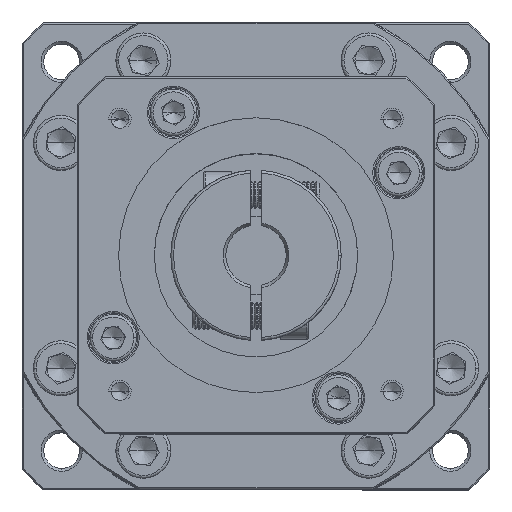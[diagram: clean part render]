
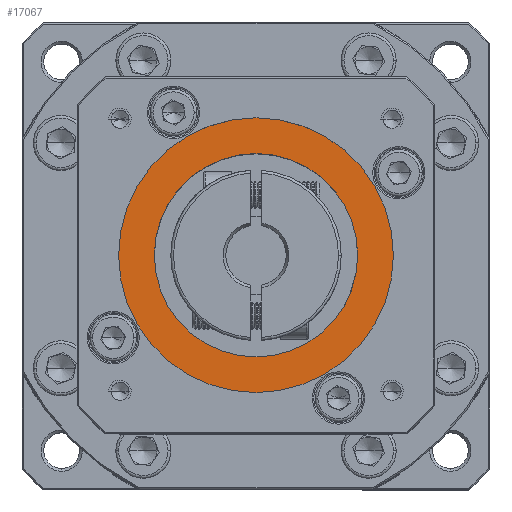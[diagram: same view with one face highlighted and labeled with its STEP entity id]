
A CAD part, top view. The second image highlights one B-rep face of the part: STEP entity #17067.
In plain terms, the highlighted planar face has unit normal (0, 0, 1).
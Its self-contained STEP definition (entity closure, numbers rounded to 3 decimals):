
#2534 = CARTESIAN_POINT ( 'NONE',  ( 14.714, -27.63, 58.548 ) ) ;
#4337 = ORIENTED_EDGE ( 'NONE', *, *, #13548, .T. ) ;
#4631 = CIRCLE ( 'NONE', #65032, 25. ) ;
#7820 = CARTESIAN_POINT ( 'NONE',  ( 14.714, -27.63, 58.548 ) ) ;
#8648 = DIRECTION ( 'NONE',  ( 1., 0., 0. ) ) ;
#9378 = EDGE_CURVE ( 'NONE', #47578, #53093, #26611, .T. ) ;
#10548 = ORIENTED_EDGE ( 'NONE', *, *, #9378, .T. ) ;
#11490 = DIRECTION ( 'NONE',  ( 1., 0., 0. ) ) ;
#11894 = CIRCLE ( 'NONE', #29070, 18.5 ) ;
#13548 = EDGE_CURVE ( 'NONE', #14242, #97882, #11894, .T. ) ;
#14242 = VERTEX_POINT ( 'NONE', #58269 ) ;
#16771 = DIRECTION ( 'NONE',  ( 1., 0., 0. ) ) ;
#17067 = ADVANCED_FACE ( 'NONE', ( #49832, #73600 ), #17244, .T. ) ;
#17244 = PLANE ( 'NONE',  #90188 ) ;
#26611 = CIRCLE ( 'NONE', #64446, 25. ) ;
#29070 = AXIS2_PLACEMENT_3D ( 'NONE', #7820, #70158, #16771 ) ;
#40534 = CIRCLE ( 'NONE', #77576, 18.5 ) ;
#42182 = CARTESIAN_POINT ( 'NONE',  ( -10.286, -27.63, 58.548 ) ) ;
#47578 = VERTEX_POINT ( 'NONE', #88833 ) ;
#47739 = DIRECTION ( 'NONE',  ( 0., 0., 1. ) ) ;
#49832 = FACE_OUTER_BOUND ( 'NONE', #78847, .T. ) ;
#50248 = CARTESIAN_POINT ( 'NONE',  ( 14.714, -27.63, 58.548 ) ) ;
#50331 = ORIENTED_EDGE ( 'NONE', *, *, #84520, .T. ) ;
#52832 = EDGE_LOOP ( 'NONE', ( #4337, #50331 ) ) ;
#53093 = VERTEX_POINT ( 'NONE', #42182 ) ;
#58269 = CARTESIAN_POINT ( 'NONE',  ( 33.214, -27.63, 58.548 ) ) ;
#59304 = DIRECTION ( 'NONE',  ( 1., 0., 0. ) ) ;
#62052 = DIRECTION ( 'NONE',  ( 0., 0., 1. ) ) ;
#64446 = AXIS2_PLACEMENT_3D ( 'NONE', #50248, #112688, #59304 ) ;
#64867 = DIRECTION ( 'NONE',  ( 0., 0., -1. ) ) ;
#65032 = AXIS2_PLACEMENT_3D ( 'NONE', #101218, #47739, #110172 ) ;
#70158 = DIRECTION ( 'NONE',  ( 0., 0., -1. ) ) ;
#70231 = EDGE_CURVE ( 'NONE', #53093, #47578, #4631, .T. ) ;
#71741 = CARTESIAN_POINT ( 'NONE',  ( -3.786, -27.63, 58.548 ) ) ;
#73600 = FACE_BOUND ( 'NONE', #52832, .T. ) ;
#77576 = AXIS2_PLACEMENT_3D ( 'NONE', #2534, #64867, #11490 ) ;
#78847 = EDGE_LOOP ( 'NONE', ( #10548, #96173 ) ) ;
#84520 = EDGE_CURVE ( 'NONE', #97882, #14242, #40534, .T. ) ;
#88833 = CARTESIAN_POINT ( 'NONE',  ( 39.714, -27.63, 58.548 ) ) ;
#90188 = AXIS2_PLACEMENT_3D ( 'NONE', #115470, #62052, #8648 ) ;
#96173 = ORIENTED_EDGE ( 'NONE', *, *, #70231, .T. ) ;
#97882 = VERTEX_POINT ( 'NONE', #71741 ) ;
#101218 = CARTESIAN_POINT ( 'NONE',  ( 14.714, -27.63, 58.548 ) ) ;
#110172 = DIRECTION ( 'NONE',  ( 1., 0., 0. ) ) ;
#112688 = DIRECTION ( 'NONE',  ( 0., 0., 1. ) ) ;
#115470 = CARTESIAN_POINT ( 'NONE',  ( 14.714, -27.63, 58.548 ) ) ;
